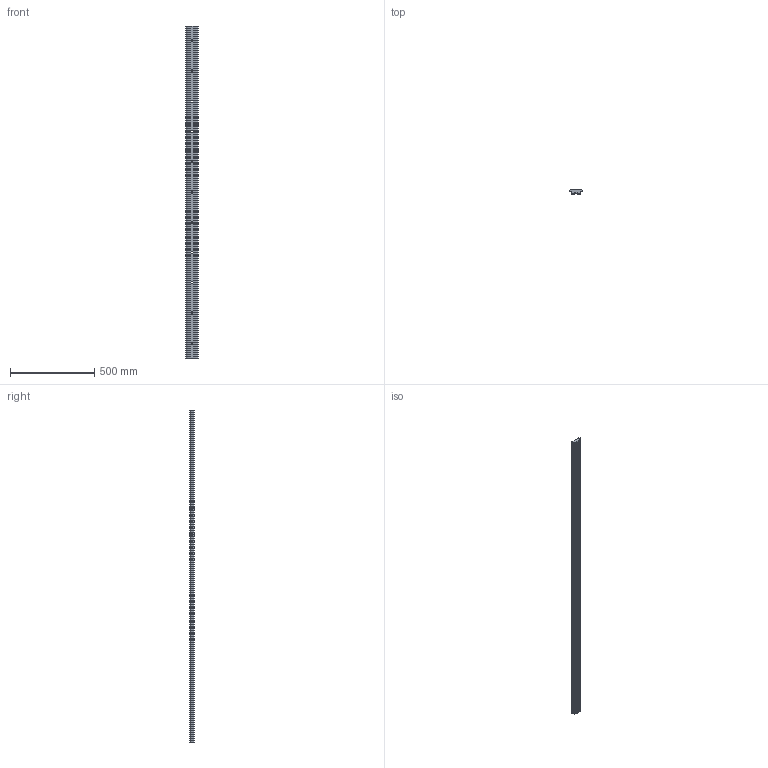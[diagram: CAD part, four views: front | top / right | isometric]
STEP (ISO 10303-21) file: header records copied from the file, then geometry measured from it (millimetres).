
FILE_DESCRIPTION(('STEP AP203'),'1');
FILE_NAME('slide_nl76l1976p3.stp','2022-07-01T05:45:32',('TraceParts'),('TraceParts S.A.'),'Spatial InterOp 3D',' ',' ');
FILE_SCHEMA(('CONFIG_CONTROL_DESIGN'));
Length unit declared in the file: millimetre
Products named in the file (1): 1
Bounding box: 76.45 x 24.41 x 1976 mm (x, y, z)
Volume: 2480500.4 mm3; surface area: 411383.6 mm2
Topology: 1 solids, 1 shells, 93 faces, 240 edges, 160 vertices
Faces by surface type: cylinder 56, plane 37
Entity records: 2974 total; most frequent: DIRECTION 540, CARTESIAN_POINT 494, ORIENTED_EDGE 480, EDGE_CURVE 240, AXIS2_PLACEMENT_3D 206, VERTEX_POINT 160, LINE 128, VECTOR 128
